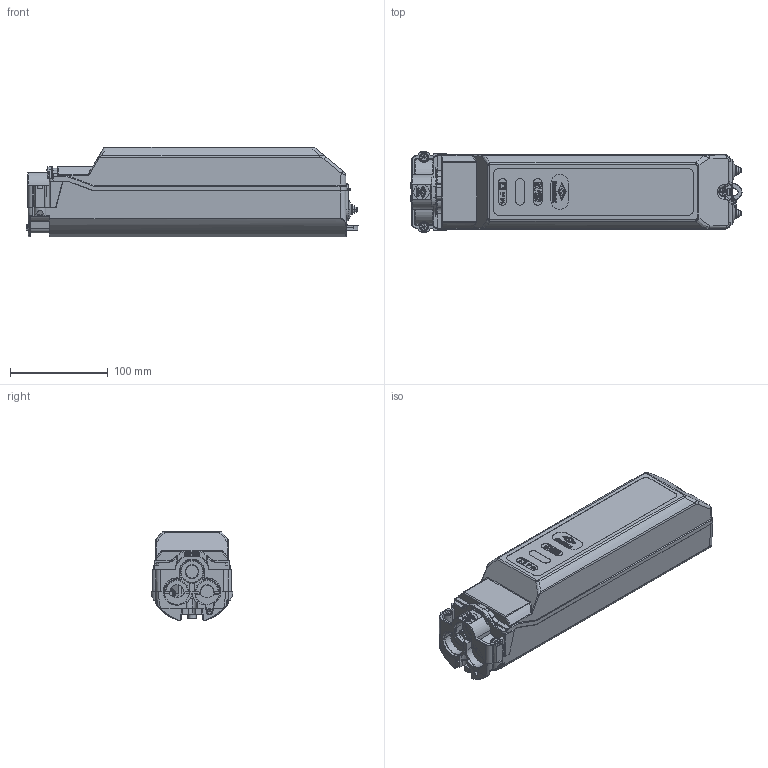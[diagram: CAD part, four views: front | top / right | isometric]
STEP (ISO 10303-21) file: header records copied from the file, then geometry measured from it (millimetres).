
FILE_DESCRIPTION (( 'STEP AP203' ), '1' );
FILE_NAME ('3D - HSW2509 Außenkontur.STEP', '2019-06-28T08:38:40', ( '' ), ( '' ), 'SwSTEP 2.0', 'SolidWorks 2013', '' );
FILE_SCHEMA (( 'CONFIG_CONTROL_DESIGN' ));
Length unit declared in the file: millimetre
Products named in the file (1): 3D - HSW2509 Außenkontur
Bounding box: 339.54 x 83.5 x 91.61 mm (x, y, z)
Surface area: 132684.4 mm2 (no closed solid volume)
Topology: 0 solids, 24 shells, 1193 faces, 4158 edges, 2907 vertices
Faces by surface type: plane 534, cylinder 303, bspline 154, cone 101, torus 93, sphere 8
Entity records: 55236 total; most frequent: CARTESIAN_POINT 21786, ORIENTED_EDGE 6749, DIRECTION 6288, EDGE_CURVE 4148, VERTEX_POINT 2907, LINE 2390, VECTOR 2390, AXIS2_PLACEMENT_3D 1949
